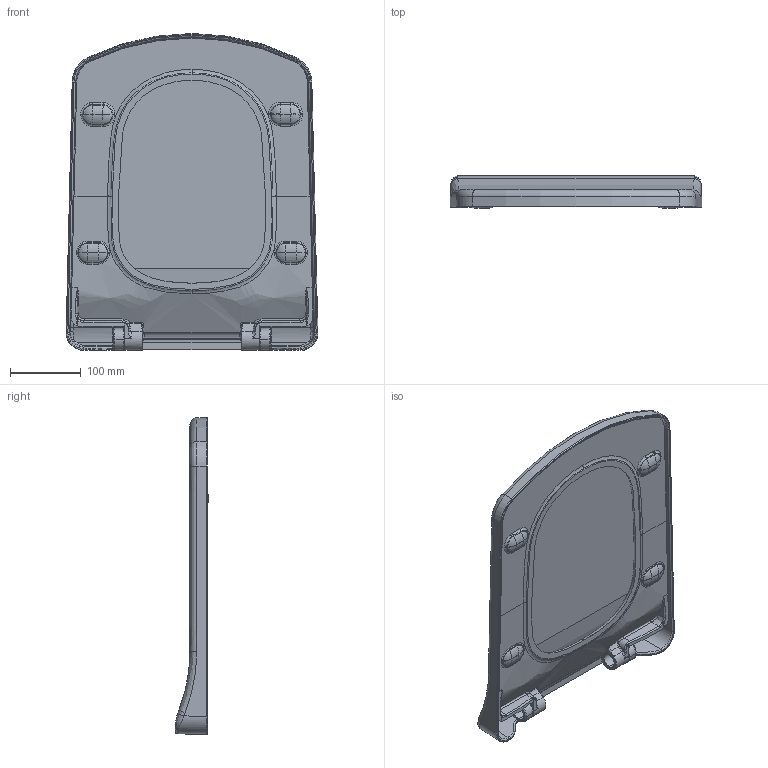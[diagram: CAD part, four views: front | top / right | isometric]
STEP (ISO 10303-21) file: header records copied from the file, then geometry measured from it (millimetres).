
FILE_DESCRIPTION (( 'STEP AP203' ), '1' );
FILE_NAME ('KC3541 LARA.STEP', '2018-08-07T12:35:17', ( '' ), ( '' ), 'SwSTEP 2.0', 'SolidWorks 2018', '' );
FILE_SCHEMA (( 'CONFIG_CONTROL_DESIGN' ));
Length unit declared in the file: millimetre
Products named in the file (1): KC3541 LARA
Bounding box: 356.23 x 46.8 x 448.56 mm (x, y, z)
Volume: 1439585.5 mm3; surface area: 560304.5 mm2
Topology: 6 solids, 6 shells, 480 faces, 1179 edges, 695 vertices
Faces by surface type: bspline 257, cylinder 103, plane 68, torus 36, cone 14, sphere 2
Entity records: 43725 total; most frequent: CARTESIAN_POINT 34636, ORIENTED_EDGE 2310, DIRECTION 1283, EDGE_CURVE 1155, VERTEX_POINT 695, AXIS2_PLACEMENT_3D 524, B_SPLINE_CURVE_WITH_KNOTS 500, EDGE_LOOP 500
